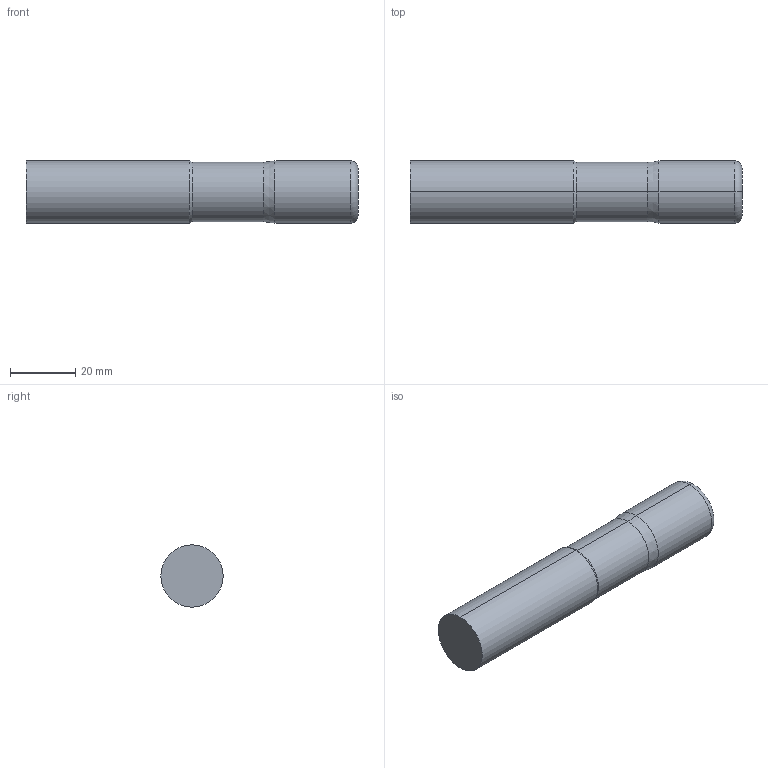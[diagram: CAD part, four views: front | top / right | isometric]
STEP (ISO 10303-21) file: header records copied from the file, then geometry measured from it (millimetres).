
FILE_DESCRIPTION (( 'STEP AP214' ), '1' );
FILE_NAME ('SSIRN70750-090.STEP', '2025-05-30T14:30:12', ( '' ), ( '' ), 'SwSTEP 2.0', 'SolidWorks 2023', '' );
FILE_SCHEMA (( 'AUTOMOTIVE_DESIGN' ));
Length unit declared in the file: inch
Products named in the file (3): SSIRN70750-090; SSI7 Cut Only_SSIRN70750-090; SSI7 Shank Only_SSIRN70750-090
Assembly tree (2 placements, depth 2):
  SSIRN70750-090
    SSI7 Cut Only_SSIRN70750-090
    SSI7 Shank Only_SSIRN70750-090
Bounding box: 101.6 x 19.05 x 19.05 mm (x, y, z)
Volume: 28271.5 mm3; surface area: 7101.1 mm2
Topology: 2 solids, 2 shells, 16 faces, 28 edges, 16 vertices
Faces by surface type: cylinder 6, plane 4, cone 4, torus 2
Entity records: 484 total; most frequent: DIRECTION 88, CARTESIAN_POINT 65, ORIENTED_EDGE 56, AXIS2_PLACEMENT_3D 39, EDGE_CURVE 28, CIRCLE 18, VERTEX_POINT 16, ADVANCED_FACE 16
